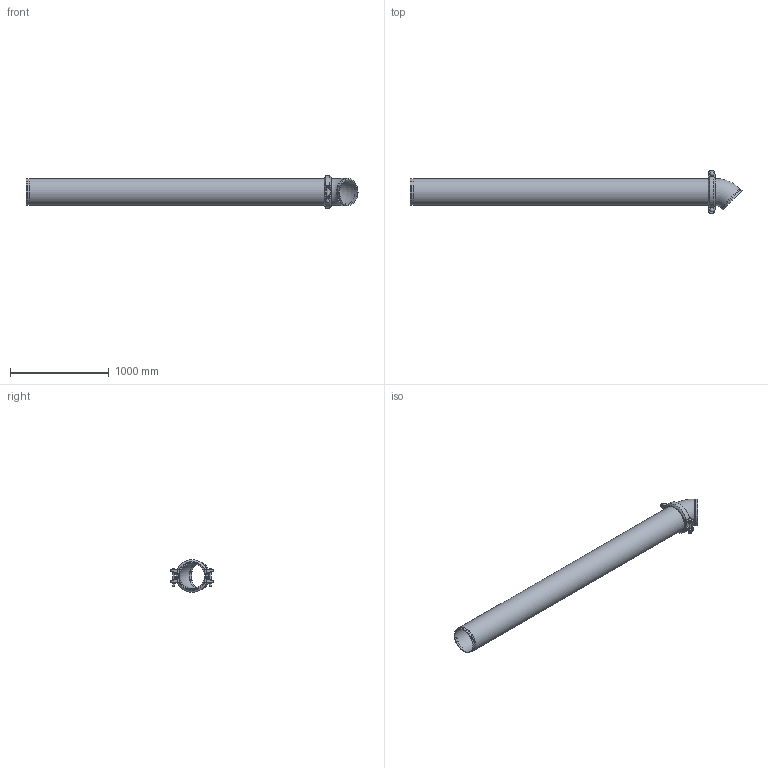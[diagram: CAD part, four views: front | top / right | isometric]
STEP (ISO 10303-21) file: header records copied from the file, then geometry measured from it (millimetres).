
FILE_DESCRIPTION(/* description */ ('VIC LONG RUN FITTING No R14 (OGS)','CAx-IF Rec.Pracs.---Representation and Presentation of Product Manufacturing Information (PMI)---4.0---2014-10-13'),/* implementation_level */ '2;1');
FILE_NAME(/* name */ 'C:\Users\Vjadhav\AppData\Roaming\Autodesk\ApplicationPlugins\Back Up\Victaulic_IPS_Long Run Fittings_No R14 (OGS)\Victaulic_IPS_Long Run Fittings_No R14 (OGS)_10 (250).stp',/* time_stamp */ '2020-10-13T18:28:59+06:00',/* author */ ('Vjadhav'),/* organization */ ('Victaulic'),/* preprocessor_version */ 'ST-DEVELOPER v17.2',/* originating_system */ 'Autodesk Inventor 2019',/* authorisation */ '');
FILE_SCHEMA (('AP242_MANAGED_MODEL_BASED_3D_ENGINEERING_MIM_LF { 1 0 10303 442 1 1 4 }'));
Length unit declared in the file: inch
Products named in the file (4): R14-10.0; 011-10.0; 107N-10.0; Pipe_R13-10.0
Assembly tree (3 placements, depth 2):
  R14-10.0
    011-10.0
    107N-10.0
    Pipe_R13-10.0
Bounding box: 3355.58 x 435.1 x 330.2 mm (x, y, z)
Volume: 27249562.1 mm3; surface area: 5728825.6 mm2
Topology: 3 solids, 3 shells, 145 faces, 375 edges, 252 vertices
Faces by surface type: plane 62, cylinder 59, bspline 16, cone 4, torus 2, sphere 2
Full cylindrical faces by diameter (mm): 22.225 x4, 37.694 x2, 254.508 x3, 260.35 x1, 268.275 x4, 273.05 x7
Entity records: 5416 total; most frequent: CARTESIAN_POINT 1427, DIRECTION 813, ORIENTED_EDGE 750, EDGE_CURVE 375, AXIS2_PLACEMENT_3D 318, VERTEX_POINT 252, LINE 177, VECTOR 177
